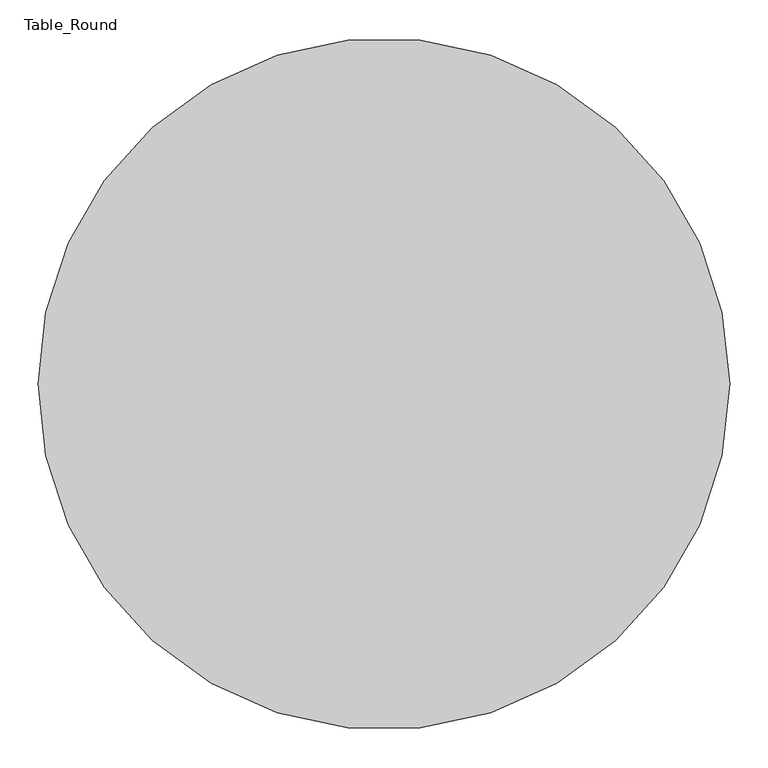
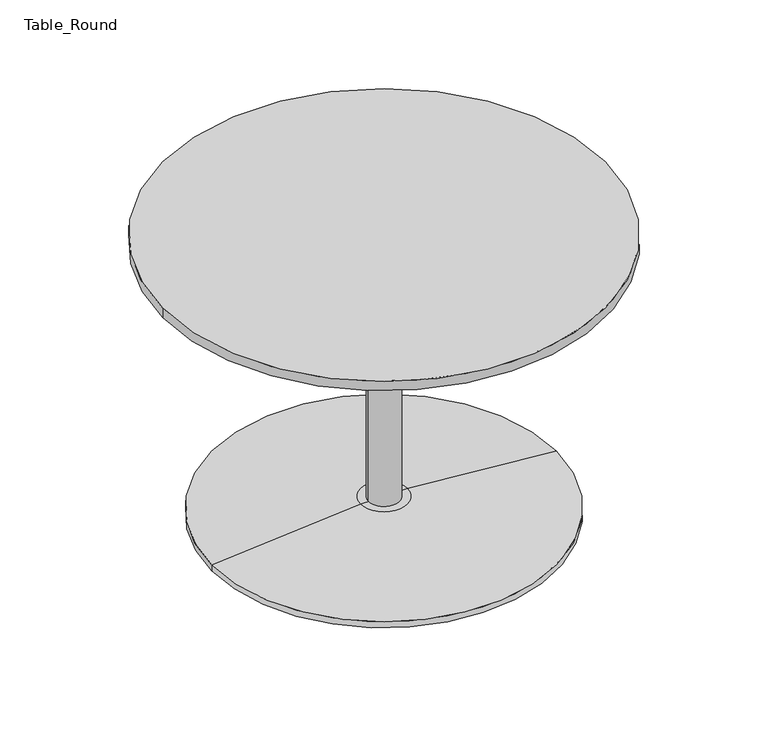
"""IFC4 building model written with IfcOpenShell, lengths in millimetres: furniture geometry, Table_Round : H600 Ø900 2."""

from ifc_helpers import new_model, si_unit, point, frame, origin, origin_2d, place, context, project, spatial, polyline, circle_curve, trimmed, segment, composite_curve, outline, extrude, source, transform, mapped, element, save
from ifc_brep_helpers import plane_surface, cylinder_surface, revolved_surface, advanced_brep


def table_round_c32c2208(model_context):
    return source(origin(), model_context, "Body", "SolidModel", [
        extrude(outline(composite_curve([segment(trimmed(circle_curve(origin_2d(), 31.75), [point((-31.75, 0.0))], [point((31.75, 0.0))], False, "CARTESIAN"), True, "CONTINUOUS"), segment(trimmed(circle_curve(origin_2d(), 31.75), [point((31.75, 0.0))], [point((-31.75, 0.0))], False, "CARTESIAN"), True, "CONTINUOUS")], self_intersect=False)), frame((0.0, 0.0, 38.1), z_axis=(0.0, 0.0, 1.0), x_axis=(1.0, 0.0, 0.0)), (0.0, 0.0, 1.0), 541.9),
        advanced_brep(
        [(0.0, 0.0, 0.0), (-350.0, 0.0, 0.0), (350.0, 0.0, 0.0), (47.625, 0.0, 38.1), (-47.625, 0.0, 38.1), (0.0, 0.0, 38.1), (350.0, 0.0, 12.7), (-350.0, 0.0, 12.7)],
        [
            (0, 1),
            (1, 2, circle_curve(frame((0.0, 0.0, 0.0), z_axis=(0.0, 0.0, -1.0), x_axis=(-1.0, 0.0, 0.0)), 350.0)),
            (2, 0),
            (2, 1, circle_curve(frame((0.0, 0.0, 0.0), z_axis=(0.0, 0.0, -1.0), x_axis=(-1.0, 0.0, 0.0)), 350.0)),
            (3, 4, circle_curve(frame((0.0, 0.0, 38.1), z_axis=(0.0, 0.0, 1.0), x_axis=(-1.0, 0.0, 0.0)), 47.625)),
            (4, 5),
            (5, 3),
            (4, 3, circle_curve(frame((0.0, 0.0, 38.1), z_axis=(0.0, 0.0, 1.0), x_axis=(-1.0, 0.0, 0.0)), 47.625)),
            (6, 7, circle_curve(frame((0.0, 0.0, 12.7), z_axis=(0.0, 0.0, 1.0), x_axis=(-1.0, 0.0, 0.0)), 350.0)),
            (7, 4),
            (3, 6),
            (7, 6, circle_curve(frame((0.0, 0.0, 12.7), z_axis=(0.0, 0.0, 1.0), x_axis=(-1.0, 0.0, 0.0)), 350.0)),
            (1, 7),
            (6, 2),
        ],
        [
            plane_surface(frame((0.0, 0.0, 0.0), z_axis=(0.0, 0.0, -1.0), x_axis=(-1.0, 0.0, 0.0))),
            plane_surface(frame((0.0, 0.0, 38.1), z_axis=(0.0, 0.0, 1.0), x_axis=(-1.0, 0.0, 0.0))),
            revolved_surface(polyline([(-47.625, 0.0, 38.1), (-350.0, 0.0, 12.7)]), (0.0, 0.0, 215.9), (0.0, 0.0, -1.0)),
            cylinder_surface(frame((0.0, 0.0, 215.9), z_axis=(0.0, 0.0, -1.0), x_axis=(-1.0, 0.0, 0.0)), 350.0),
        ],
        [
            (0, [[1, 2, 3]]),
            (0, [[-3, 4, -1]]),
            (1, [[5, 6, 7]]),
            (1, [[8, -7, -6]]),
            (2, [[9, 10, -5, 11]]),
            (2, [[12, -11, -8, -10]]),
            (3, [[-2, 13, -9, 14]]),
            (3, [[-4, -14, -12, -13]]),
        ],
    ),
        extrude(outline(composite_curve([segment(trimmed(circle_curve(origin_2d(), 450.0), [point((450.0, 0.0))], [point((-450.0, 0.0))], False, "CARTESIAN"), True, "CONTINUOUS"), segment(trimmed(circle_curve(origin_2d(), 450.0), [point((-450.0, 0.0))], [point((450.0, 0.0))], False, "CARTESIAN"), True, "CONTINUOUS")], self_intersect=False)), frame((0.0, 0.0, 580.0), z_axis=(0.0, 0.0, 1.0), x_axis=(1.0, 0.0, 0.0)), (0.0, 0.0, 1.0), 20.0),
    ])


if __name__ == "__main__":
    model = new_model("IFC4")
    model_context = context("Model", 3, world=origin())
    ifc_project = project(units=[si_unit("LENGTHUNIT", "METRE", prefix="MILLI")], contexts=[model_context])
    site = spatial("IfcSite", under=ifc_project)
    building = spatial("IfcBuilding", under=site)
    placement = place(None, origin())
    table_round_shape = table_round_c32c2208(model_context)
    element("IfcFurniture", 1, ObjectType="Table_Round : H600 Ø900 2", at=placement, inside=building, context=model_context, shape_type="MappedRepresentation", body=[
        mapped(table_round_shape, transform((0.0, 0.0, 0.0), x_axis=(1.0, 0.0, 0.0), y_axis=(0.0, 1.0, 0.0), z_axis=(0.0, 0.0, 1.0))),
    ])
    save(model, "model.ifc")
